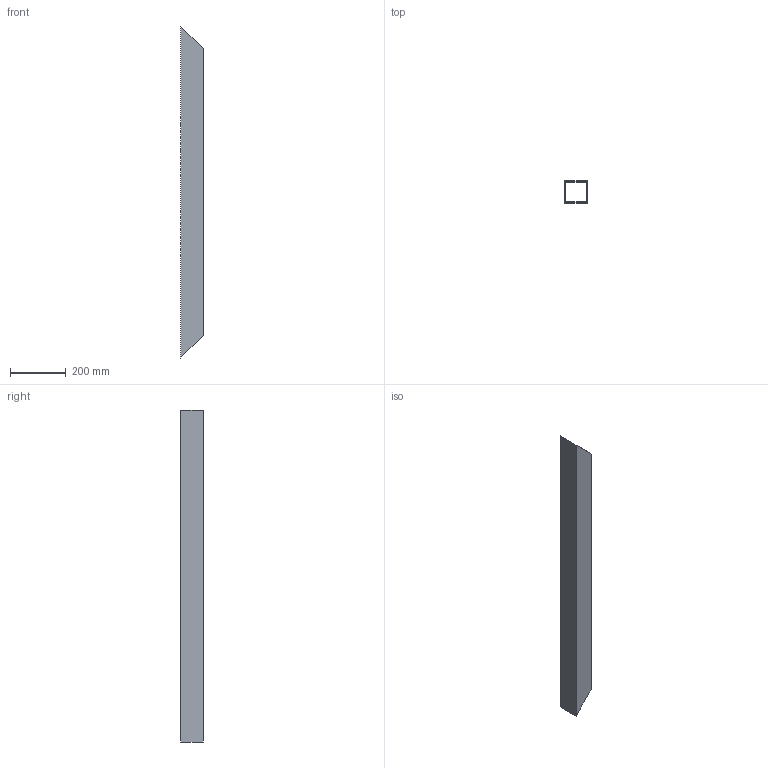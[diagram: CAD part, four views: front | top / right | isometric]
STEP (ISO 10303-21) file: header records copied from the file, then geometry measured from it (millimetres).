
FILE_DESCRIPTION(('Open CASCADE Model'),'2;1');
FILE_NAME('Open CASCADE Shape Model','2026-10-15T15:10:04',('Author'),( 'Open CASCADE'),'Open CASCADE STEP processor 8.0','Open CASCADE 8.0' ,'Unknown');
FILE_SCHEMA(('AUTOMOTIVE_DESIGN { 1 0 10303 214 1 1 1 1 }'));
Length unit declared in the file: millimetre
Products named in the file (1): SHS80x80x4_L1113138_CUT49d092_P05 12
Bounding box: 80 x 80 x 1193.14 mm (x, y, z)
Volume: 1353576.3 mm3; surface area: 680227.5 mm2
Topology: 1 solids, 1 shells, 10 faces, 24 edges, 16 vertices
Faces by surface type: plane 10
Entity records: 586 total; most frequent: CARTESIAN_POINT 127, DIRECTION 66, ORIENTED_EDGE 48, PCURVE 48, DEFINITIONAL_REPRESENTATION 48, LINE 44, VECTOR 44, B_SPLINE_CURVE_WITH_KNOTS 28
